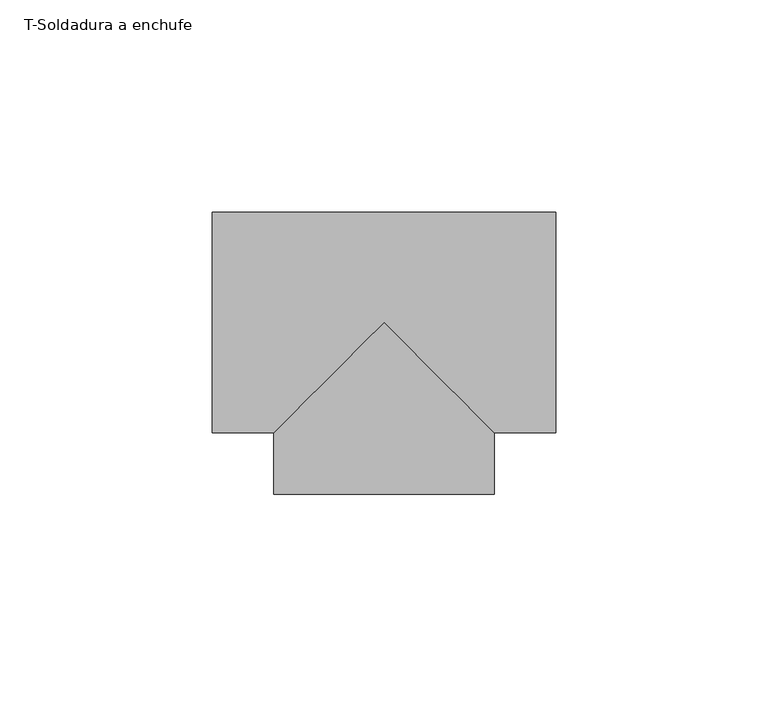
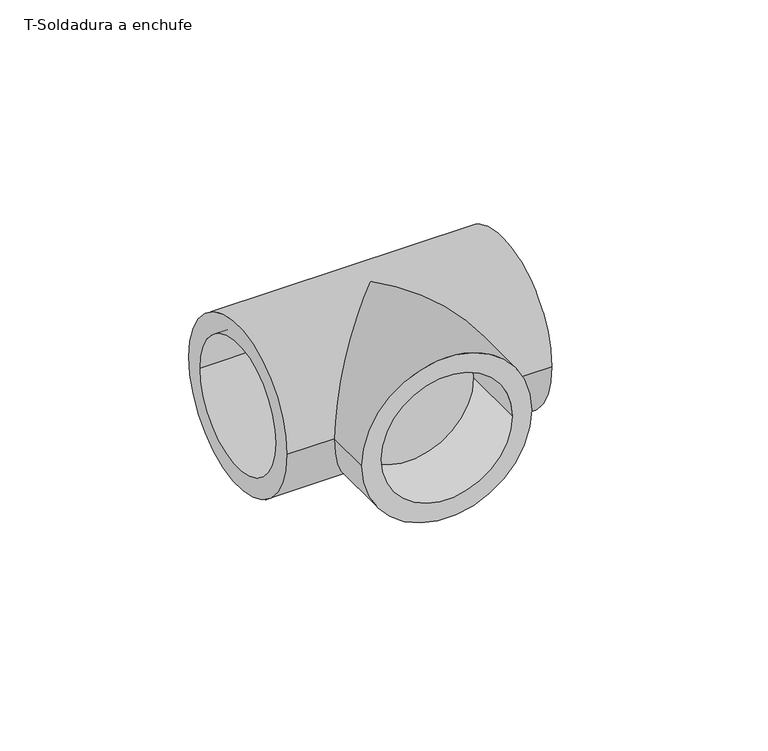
"""IFC4 building model written with IfcOpenShell, lengths in millimetres: pipe fitting geometry, T-Soldadura a enchufe : Estándar."""

from ifc_helpers import new_model, si_unit, frame, origin, place, context, project, spatial, polyline, circle_curve, ellipse_curve, source, transform, mapped, element, save
from ifc_brep_helpers import plane_surface, cylinder_surface, revolved_surface, advanced_brep


def t_soldadura_a_enchufe_3838ae01(model_context):
    return source(origin(), model_context, "Body", "AdvancedBrep", [
        advanced_brep(
        [(-40.5, -26.0, 0.0), (-40.5, 26.0, 0.0), (-40.5, -20.0, 0.0), (-40.5, 20.0, 0.0), (40.5, -26.0, 0.0), (40.5, 26.0, 0.0), (40.5, -20.0, 0.0), (40.5, 20.0, 0.0), (-26.0, -26.0, 0.0), (0.0, 0.0, 26.0), (26.0, -26.0, 0.0), (0.0, 0.0, -26.0), (-26.0, -40.5, 0.0), (26.0, -40.5, 0.0), (20.0, -40.5, 0.0), (-20.0, -40.5, 0.0), (-20.0, -20.0, 0.0), (-20.0, 20.0, 0.0), (20.0, -20.0, 0.0), (20.0, 20.0, 0.0), (-20.0, -20.0, 0.0), (20.0, -20.0, 0.0)],
        [
            (0, 1, circle_curve(frame((-40.5, 0.0, 0.0), z_axis=(-1.0, 0.0, 0.0), x_axis=(0.0, 1.0, 0.0)), 26.0)),
            (1, 0, circle_curve(frame((-40.5, 0.0, 0.0), z_axis=(-1.0, 0.0, 0.0), x_axis=(0.0, 1.0, 0.0)), 26.0)),
            (2, 3, circle_curve(frame((-40.5, 0.0, 0.0), z_axis=(1.0, 0.0, 0.0), x_axis=(0.0, 1.0, 0.0)), 20.0)),
            (3, 2, circle_curve(frame((-40.5, 0.0, 0.0), z_axis=(1.0, 0.0, 0.0), x_axis=(0.0, 1.0, 0.0)), 20.0)),
            (4, 5, circle_curve(frame((40.5, 0.0, 0.0), z_axis=(1.0, 0.0, 0.0), x_axis=(0.0, 1.0, 0.0)), 26.0)),
            (5, 4, circle_curve(frame((40.5, 0.0, 0.0), z_axis=(1.0, 0.0, 0.0), x_axis=(0.0, 1.0, 0.0)), 26.0)),
            (6, 7, circle_curve(frame((40.5, 0.0, 0.0), z_axis=(-1.0, 0.0, 0.0), x_axis=(0.0, 1.0, 0.0)), 20.0)),
            (7, 6, circle_curve(frame((40.5, 0.0, 0.0), z_axis=(-1.0, 0.0, 0.0), x_axis=(0.0, 1.0, 0.0)), 20.0)),
            (0, 8),
            (8, 9, ellipse_curve(frame((0.0, 0.0, 0.0), z_axis=(-0.707106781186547, 0.7071067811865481, 0.0), x_axis=(-0.707106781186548, -0.707106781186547, 0.0)), 36.7695526, 26.0)),
            (9, 10, ellipse_curve(frame((0.0, 0.0, 0.0), z_axis=(0.707106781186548, 0.7071067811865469, 0.0), x_axis=(-0.707106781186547, 0.707106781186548, 0.0)), 36.7695526, 26.0)),
            (10, 4),
            (5, 1),
            (10, 11, ellipse_curve(frame((0.0, 0.0, 0.0), z_axis=(0.707106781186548, 0.7071067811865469, 0.0), x_axis=(-0.707106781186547, 0.707106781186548, 0.0)), 36.7695526, 26.0)),
            (11, 8, ellipse_curve(frame((0.0, 0.0, 0.0), z_axis=(-0.707106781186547, 0.7071067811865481, 0.0), x_axis=(-0.707106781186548, -0.707106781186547, 0.0)), 36.7695526, 26.0)),
            (12, 13, circle_curve(frame((0.0, -40.5, 0.0), z_axis=(0.0, -1.0, 0.0), x_axis=(1.0, 0.0, 0.0)), 26.0)),
            (13, 12, circle_curve(frame((0.0, -40.5, 0.0), z_axis=(0.0, -1.0, 0.0), x_axis=(1.0, 0.0, 0.0)), 26.0)),
            (14, 15, circle_curve(frame((0.0, -40.5, 0.0), z_axis=(0.0, 1.0, 0.0), x_axis=(1.0, 0.0, 0.0)), 20.0)),
            (15, 14, circle_curve(frame((0.0, -40.5, 0.0), z_axis=(0.0, 1.0, 0.0), x_axis=(1.0, 0.0, 0.0)), 20.0)),
            (13, 10),
            (8, 12),
            (16, 17, circle_curve(frame((-20.0, 0.0, 0.0), z_axis=(-1.0, 0.0, 0.0), x_axis=(0.0, 1.0, 0.0)), 20.0)),
            (17, 16, circle_curve(frame((-20.0, 0.0, 0.0), z_axis=(-1.0, 0.0, 0.0), x_axis=(0.0, 1.0, 0.0)), 20.0)),
            (17, 3),
            (2, 16),
            (18, 19, circle_curve(frame((20.0, 0.0, 0.0), z_axis=(1.0, 0.0, 0.0), x_axis=(0.0, 1.0, 0.0)), 20.0)),
            (19, 18, circle_curve(frame((20.0, 0.0, 0.0), z_axis=(1.0, 0.0, 0.0), x_axis=(0.0, 1.0, 0.0)), 20.0)),
            (19, 7),
            (6, 18),
            (20, 21, circle_curve(frame((0.0, -20.0, 0.0), z_axis=(0.0, -1.0, 0.0), x_axis=(1.0, 0.0, 0.0)), 20.0)),
            (21, 20, circle_curve(frame((0.0, -20.0, 0.0), z_axis=(0.0, -1.0, 0.0), x_axis=(1.0, 0.0, 0.0)), 20.0)),
            (20, 15),
            (14, 21),
        ],
        [
            plane_surface(frame((-40.5, 0.0, 0.0), z_axis=(-1.0, 0.0, 0.0), x_axis=(0.0, 0.0, 1.0))),
            plane_surface(frame((40.5, 0.0, 0.0), z_axis=(1.0, 0.0, 0.0), x_axis=(0.0, 0.0, 1.0))),
            cylinder_surface(frame((-40.5, 0.0, 0.0), z_axis=(-1.0, 0.0, 0.0), x_axis=(0.0, 1.0, 0.0)), 26.0),
            plane_surface(frame((0.0, -40.5, 0.0), z_axis=(0.0, -1.0, 0.0), x_axis=(0.0, 0.0, 1.0))),
            cylinder_surface(frame((0.0, 0.0, 0.0), z_axis=(0.0, 1.0, 0.0), x_axis=(1.0, 0.0, 0.0)), 26.0),
            plane_surface(frame((-20.0, 20.0, 0.0), z_axis=(-1.0, 0.0, 0.0), x_axis=(0.0, 0.0, 1.0))),
            revolved_surface(polyline([(-20.0, 20.0, 0.0), (-40.5, 20.0, 0.0)]), (-40.5, 0.0, 0.0), (1.0, 0.0, 0.0)),
            plane_surface(frame((20.0, 20.0, 0.0), z_axis=(1.0, 0.0, 0.0), x_axis=(0.0, 0.0, -1.0))),
            revolved_surface(polyline([(20.0, 20.0, 0.0), (40.5, 20.0, 0.0)]), (40.5, 0.0, 0.0), (-1.0, 0.0, 0.0)),
            plane_surface(frame((20.0, -20.0, 0.0), z_axis=(0.0, -1.0, 0.0), x_axis=(0.0, 0.0, -1.0))),
            revolved_surface(polyline([(20.0, -40.5, 0.0), (20.0, -20.0, 0.0)]), (0.0, -20.0, 0.0), (0.0, -1.0, 0.0)),
        ],
        [
            (0, [[1, 2], [3, 4]]),
            (1, [[5, 6], [7, 8]]),
            (2, [[-1, 9, 10, 11, 12, -6, 13]]),
            (2, [[-2, -13, -5, -12, 14, 15, -9]]),
            (3, [[16, 17], [18, 19]]),
            (4, [[-17, 20, -11, -10, 21]]),
            (4, [[-16, -21, -15, -14, -20]]),
            (5, [[22, 23]]),
            (6, [[-23, 24, -3, 25]]),
            (6, [[-22, -25, -4, -24]]),
            (7, [[26, 27]]),
            (8, [[-27, 28, -7, 29]]),
            (8, [[-26, -29, -8, -28]]),
            (9, [[30, 31]]),
            (10, [[-30, 32, -18, 33]]),
            (10, [[-31, -33, -19, -32]]),
        ],
    ),
    ])


if __name__ == "__main__":
    model = new_model("IFC4")
    model_context = context("Model", 3, world=origin())
    ifc_project = project(units=[si_unit("LENGTHUNIT", "METRE", prefix="MILLI")], contexts=[model_context])
    site = spatial("IfcSite", under=ifc_project)
    building = spatial("IfcBuilding", under=site)
    placement = place(None, origin())
    t_soldadura_a_enchufe_shape = t_soldadura_a_enchufe_3838ae01(model_context)
    element("IfcPipeFitting", 1, ObjectType="T-Soldadura a enchufe : Estándar", at=placement, inside=building, context=model_context, shape_type="MappedRepresentation", body=[
        mapped(t_soldadura_a_enchufe_shape, transform((0.0, 0.0, 0.0), x_axis=(1.0, 0.0, 0.0), y_axis=(0.0, 1.0, 0.0), z_axis=(0.0, 0.0, 1.0))),
    ])
    save(model, "model.ifc")
